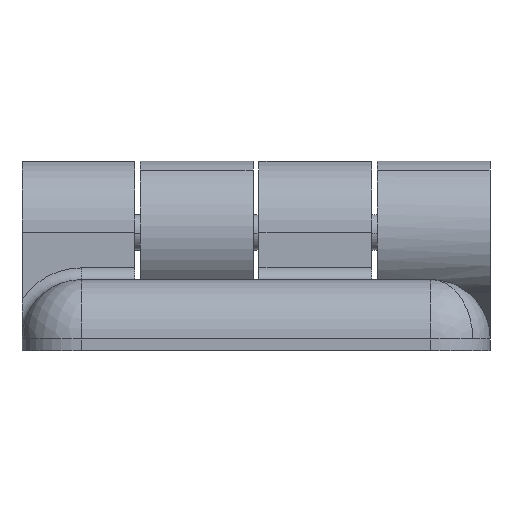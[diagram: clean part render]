
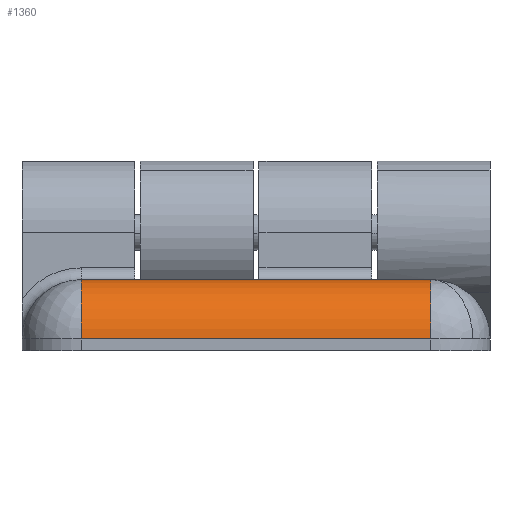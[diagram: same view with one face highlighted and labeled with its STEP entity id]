
A CAD part, front view. The second image highlights one B-rep face of the part: STEP entity #1360.
In plain terms, the highlighted cylindrical face has radius 5 mm (diameter 10 mm), a partial arc.
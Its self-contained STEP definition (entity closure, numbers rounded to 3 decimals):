
#10 = DIRECTION ( 'NONE',  ( 1., 0., 0. ) ) ;
#36 = CARTESIAN_POINT ( 'NONE',  ( -11.423, -9.619, 5.999 ) ) ;
#74 = VERTEX_POINT ( 'NONE', #201 ) ;
#83 = DIRECTION ( 'NONE',  ( 0., 0.031, 1. ) ) ;
#88 = ORIENTED_EDGE ( 'NONE', *, *, #2935, .F. ) ;
#104 = VECTOR ( 'NONE', #10, 1000. ) ;
#141 = EDGE_CURVE ( 'NONE', #1436, #2516, #1963, .T. ) ;
#155 = DIRECTION ( 'NONE',  ( 1., 0., 0. ) ) ;
#165 = CARTESIAN_POINT ( 'NONE',  ( 14.75, -14.5, 1. ) ) ;
#199 = CARTESIAN_POINT ( 'NONE',  ( 14.75, -9.5, 1. ) ) ;
#201 = CARTESIAN_POINT ( 'NONE',  ( -11.73, -9.5, 6. ) ) ;
#273 = VERTEX_POINT ( 'NONE', #1101 ) ;
#274 = LINE ( 'NONE', #1578, #1814 ) ;
#289 = CARTESIAN_POINT ( 'NONE',  ( -7.77, -9.5, 6. ) ) ;
#336 = CARTESIAN_POINT ( 'NONE',  ( -8.951, -9.854, 5.988 ) ) ;
#350 = CARTESIAN_POINT ( 'NONE',  ( 11.656, -9.53, 6. ) ) ;
#352 = EDGE_LOOP ( 'NONE', ( #3545, #88, #2655, #3700, #1806, #3957, #1143, #2532 ) ) ;
#393 = AXIS2_PLACEMENT_3D ( 'NONE', #3035, #2989, #83 ) ;
#434 = CARTESIAN_POINT ( 'NONE',  ( -8.207, -9.662, 5.998 ) ) ;
#474 = LINE ( 'NONE', #4031, #3224 ) ;
#575 = CARTESIAN_POINT ( 'NONE',  ( 7.77, -9.5, 6. ) ) ;
#619 = CARTESIAN_POINT ( 'NONE',  ( -11.046, -9.735, 5.994 ) ) ;
#696 = EDGE_CURVE ( 'NONE', #3696, #4013, #474, .T. ) ;
#715 = AXIS2_PLACEMENT_3D ( 'NONE', #199, #155, #1465 ) ;
#746 = FACE_OUTER_BOUND ( 'NONE', #352, .T. ) ;
#775 = CARTESIAN_POINT ( 'NONE',  ( -7.77, -9.5, 6. ) ) ;
#878 = EDGE_CURVE ( 'NONE', #4167, #1436, #1257, .T. ) ;
#935 = VERTEX_POINT ( 'NONE', #775 ) ;
#943 = CARTESIAN_POINT ( 'NONE',  ( -14.75, -9.5, 6. ) ) ;
#980 = EDGE_CURVE ( 'NONE', #273, #3696, #4132, .T. ) ;
#1023 = CARTESIAN_POINT ( 'NONE',  ( -11.267, -9.67, 5.997 ) ) ;
#1101 = CARTESIAN_POINT ( 'NONE',  ( -14.75, -9.5, 6. ) ) ;
#1143 = ORIENTED_EDGE ( 'NONE', *, *, #3081, .F. ) ;
#1257 = B_SPLINE_CURVE_WITH_KNOTS ( 'NONE', 3,
 ( #1591, #2584, #2879, #2261, #3916, #3265, #2306, #2539, #1277, #2285, #3591, #2562, #350, #1651 ),
 .UNSPECIFIED., .F., .F.,
 ( 4, 1, 1, 1, 1, 1, 1, 1, 1, 1, 1, 4 ),
 ( 0., 0.038, 0.08, 0.125, 0.159, 0.25, 0.5, 0.748, 0.84, 0.874, 0.941, 1. ),
 .UNSPECIFIED. ) ;
#1277 = CARTESIAN_POINT ( 'NONE',  ( 10.549, -9.854, 5.988 ) ) ;
#1308 = CARTESIAN_POINT ( 'NONE',  ( 14.75, -9.5, 6. ) ) ;
#1360 = ADVANCED_FACE ( 'NONE', ( #746 ), #1978, .T. ) ;
#1436 = VERTEX_POINT ( 'NONE', #3226 ) ;
#1465 = DIRECTION ( 'NONE',  ( 0., 0., 1. ) ) ;
#1543 = AXIS2_PLACEMENT_3D ( 'NONE', #2727, #4043, #3655 ) ;
#1578 = CARTESIAN_POINT ( 'NONE',  ( -14.75, -9.5, 6. ) ) ;
#1591 = CARTESIAN_POINT ( 'NONE',  ( 7.77, -9.5, 6. ) ) ;
#1651 = CARTESIAN_POINT ( 'NONE',  ( 11.73, -9.5, 6. ) ) ;
#1806 = ORIENTED_EDGE ( 'NONE', *, *, #980, .T. ) ;
#1814 = VECTOR ( 'NONE', #2488, 1000. ) ;
#1963 = LINE ( 'NONE', #943, #104 ) ;
#1978 = CYLINDRICAL_SURFACE ( 'NONE', #393, 5. ) ;
#2002 = CIRCLE ( 'NONE', #715, 5. ) ;
#2145 = DIRECTION ( 'NONE',  ( 1., 0., 0. ) ) ;
#2225 = CARTESIAN_POINT ( 'NONE',  ( -11.73, -9.5, 6. ) ) ;
#2244 = CARTESIAN_POINT ( 'NONE',  ( -11.682, -9.52, 6. ) ) ;
#2261 = CARTESIAN_POINT ( 'NONE',  ( 8.077, -9.619, 5.999 ) ) ;
#2285 = CARTESIAN_POINT ( 'NONE',  ( 11.042, -9.736, 5.994 ) ) ;
#2306 = CARTESIAN_POINT ( 'NONE',  ( 8.948, -9.854, 5.988 ) ) ;
#2488 = DIRECTION ( 'NONE',  ( 1., 0., 0. ) ) ;
#2516 = VERTEX_POINT ( 'NONE', #1308 ) ;
#2532 = ORIENTED_EDGE ( 'NONE', *, *, #141, .F. ) ;
#2539 = CARTESIAN_POINT ( 'NONE',  ( 9.747, -9.934, 5.981 ) ) ;
#2562 = CARTESIAN_POINT ( 'NONE',  ( 11.498, -9.594, 5.999 ) ) ;
#2567 = LINE ( 'NONE', #2625, #3566 ) ;
#2584 = CARTESIAN_POINT ( 'NONE',  ( 7.818, -9.52, 6. ) ) ;
#2605 = CARTESIAN_POINT ( 'NONE',  ( -8.458, -9.736, 5.994 ) ) ;
#2625 = CARTESIAN_POINT ( 'NONE',  ( -14.75, -9.5, 6. ) ) ;
#2655 = ORIENTED_EDGE ( 'NONE', *, *, #2876, .F. ) ;
#2727 = CARTESIAN_POINT ( 'NONE',  ( -14.75, -9.5, 1. ) ) ;
#2876 = EDGE_CURVE ( 'NONE', #74, #935, #3793, .T. ) ;
#2879 = CARTESIAN_POINT ( 'NONE',  ( 7.918, -9.561, 6. ) ) ;
#2935 = EDGE_CURVE ( 'NONE', #935, #4167, #2567, .T. ) ;
#2938 = DIRECTION ( 'NONE',  ( 1., 0., 0. ) ) ;
#2989 = DIRECTION ( 'NONE',  ( 1., 0., 0. ) ) ;
#3035 = CARTESIAN_POINT ( 'NONE',  ( 0., -9.5, 1. ) ) ;
#3081 = EDGE_CURVE ( 'NONE', #2516, #4013, #2002, .T. ) ;
#3202 = CARTESIAN_POINT ( 'NONE',  ( -7.844, -9.53, 6. ) ) ;
#3224 = VECTOR ( 'NONE', #2145, 1000. ) ;
#3226 = CARTESIAN_POINT ( 'NONE',  ( 11.73, -9.5, 6. ) ) ;
#3247 = CARTESIAN_POINT ( 'NONE',  ( -10.552, -9.854, 5.988 ) ) ;
#3265 = CARTESIAN_POINT ( 'NONE',  ( 8.454, -9.735, 5.994 ) ) ;
#3533 = CARTESIAN_POINT ( 'NONE',  ( -8.002, -9.594, 5.999 ) ) ;
#3536 = EDGE_CURVE ( 'NONE', #273, #74, #274, .T. ) ;
#3545 = ORIENTED_EDGE ( 'NONE', *, *, #878, .F. ) ;
#3549 = CARTESIAN_POINT ( 'NONE',  ( -9.753, -9.934, 5.981 ) ) ;
#3566 = VECTOR ( 'NONE', #2938, 1000. ) ;
#3591 = CARTESIAN_POINT ( 'NONE',  ( 11.293, -9.662, 5.998 ) ) ;
#3655 = DIRECTION ( 'NONE',  ( 0., 0., 1. ) ) ;
#3696 = VERTEX_POINT ( 'NONE', #3731 ) ;
#3700 = ORIENTED_EDGE ( 'NONE', *, *, #3536, .F. ) ;
#3731 = CARTESIAN_POINT ( 'NONE',  ( -14.75, -14.5, 1. ) ) ;
#3793 = B_SPLINE_CURVE_WITH_KNOTS ( 'NONE', 3,
 ( #2225, #2244, #3877, #36, #1023, #619, #3247, #3549, #336, #2605, #434, #3533, #3202, #289 ),
 .UNSPECIFIED., .F., .F.,
 ( 4, 1, 1, 1, 1, 1, 1, 1, 1, 1, 1, 4 ),
 ( 0., 0.038, 0.08, 0.125, 0.159, 0.25, 0.5, 0.748, 0.84, 0.874, 0.941, 1. ),
 .UNSPECIFIED. ) ;
#3877 = CARTESIAN_POINT ( 'NONE',  ( -11.582, -9.561, 6. ) ) ;
#3916 = CARTESIAN_POINT ( 'NONE',  ( 8.233, -9.67, 5.997 ) ) ;
#3957 = ORIENTED_EDGE ( 'NONE', *, *, #696, .T. ) ;
#4013 = VERTEX_POINT ( 'NONE', #165 ) ;
#4031 = CARTESIAN_POINT ( 'NONE',  ( -14.75, -14.5, 1. ) ) ;
#4043 = DIRECTION ( 'NONE',  ( 1., 0., 0. ) ) ;
#4132 = CIRCLE ( 'NONE', #1543, 5. ) ;
#4167 = VERTEX_POINT ( 'NONE', #575 ) ;
